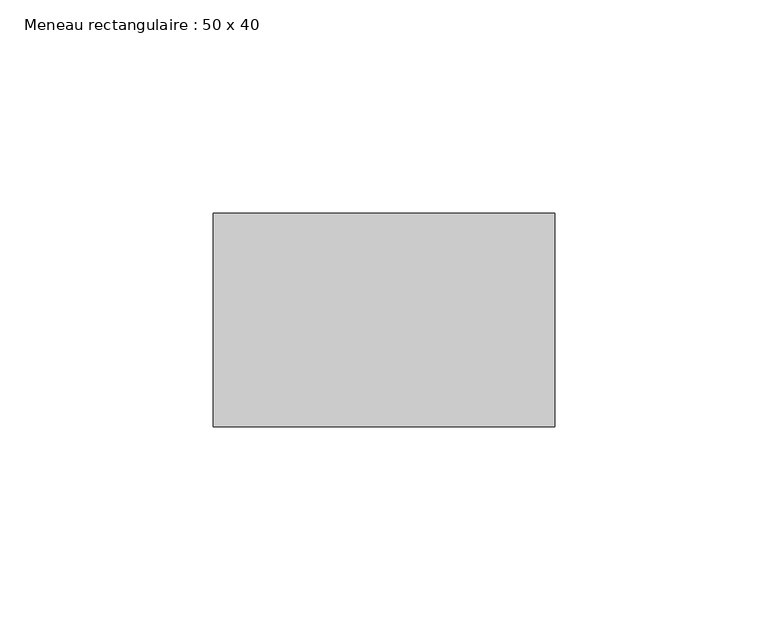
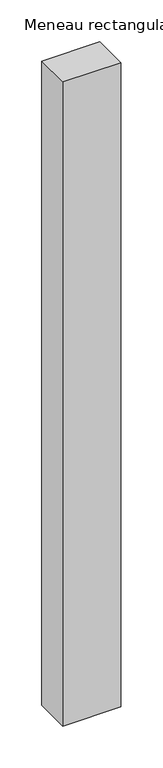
"""IFC4 building model written with IfcOpenShell, lengths in millimetres: member geometry, Meneau rectangulaire : 50 x 40."""

import ifcopenshell
import ifcopenshell.guid

model = None  # the IFC model being written
_history = None  # IfcOwnerHistory: only IFC2X3 demands one
_inside = {}  # id of a spatial element -> (the spatial element, [elements in it])
_under = {}  # id of a project, library or spatial element -> (it, [spatial elements below it])
_declared = {}  # id of a project -> (the project, [libraries it declares])
_typed = {}  # id of a type object -> (the type object, [elements of that type])
_made_of = {}  # id of a material, layer set ... -> (it, [elements and type objects made of it])


def new_model(schema):
    """Start an empty IFC model of exactly this schema.

    Asked for "IFC4X3", IfcOpenShell would pick the latest addendum, in which some entities
    have other attributes; the version numbers below select the first issue.
    IFC2X3 requires an IfcOwnerHistory on every rooted entity: one is made here for all.
    """
    global model, _history
    if schema == "IFC4X3":
        model = ifcopenshell.file(schema_version=(4, 3, 0, 0))
    else:
        model = ifcopenshell.file(schema=schema)
    _inside.clear()
    _under.clear()
    _declared.clear()
    _typed.clear()
    _made_of.clear()
    _history = None
    if model.schema == "IFC2X3":
        org = make("IfcOrganization", Name="unknown")
        user = make(
            "IfcPersonAndOrganization",
            ThePerson=make("IfcPerson", FamilyName="unknown"),
            TheOrganization=org,
        )
        app = make(
            "IfcApplication",
            ApplicationDeveloper=org,
            Version="unknown",
            ApplicationFullName="unknown",
            ApplicationIdentifier="unknown",
        )
        _history = make(
            "IfcOwnerHistory",
            OwningUser=user,
            OwningApplication=app,
            ChangeAction="ADDED",
            CreationDate=0,
        )
    return model


def make(cls, **values):
    """One entity of the class cls with the attributes given. An attribute that is None is left unset."""
    return model.create_entity(
        cls, **{name: value for name, value in values.items() if value is not None}
    )


def rooted(cls, **values):
    """An entity with a GlobalId (a new one), such as an element, a storey or a relation."""
    return make(cls, GlobalId=ifcopenshell.guid.new(), OwnerHistory=_history, **values)


def si_unit(unit_type, name, prefix=None):
    """IfcSIUnit, for example si_unit("LENGTHUNIT", "METRE", prefix="MILLI")."""
    return make("IfcSIUnit", UnitType=unit_type, Prefix=prefix, Name=name)


def assignment(units):
    """IfcUnitAssignment: the units of a project."""
    return None if units is None else make("IfcUnitAssignment", Units=units)


def point(xyz):
    """IfcCartesianPoint."""
    return None if xyz is None else make("IfcCartesianPoint", Coordinates=xyz)


def direction(xyz):
    """IfcDirection."""
    return None if xyz is None else make("IfcDirection", DirectionRatios=xyz)


def frame(location, z_axis=None, x_axis=None):
    """IfcAxis2Placement3D, a coordinate frame: its origin and axes. An axis left out is left unset."""
    return make(
        "IfcAxis2Placement3D",
        Location=point(location),
        Axis=direction(z_axis),
        RefDirection=direction(x_axis),
    )


def origin():
    """The frame at (0, 0, 0) with its axes left unset."""
    return frame((0.0, 0.0, 0.0))


def place(relative_to, where):
    """IfcLocalPlacement: puts the frame where relative to a parent placement (None: the world)."""
    return make(
        "IfcLocalPlacement", PlacementRelTo=relative_to, RelativePlacement=where
    )


def context(
    kind, dimensions, precision=None, world=None, true_north=None, identifier=None
):
    """IfcGeometricRepresentationContext, for example the 3D "Model" context."""
    return make(
        "IfcGeometricRepresentationContext",
        ContextIdentifier=identifier,
        ContextType=kind,
        CoordinateSpaceDimension=dimensions,
        Precision=precision,
        WorldCoordinateSystem=world,
        TrueNorth=true_north,
    )


def project(units=None, contexts=None):
    """IfcProject with its units and contexts."""
    return rooted(
        "IfcProject",
        Name="project",
        RepresentationContexts=contexts,
        UnitsInContext=assignment(units),
    )


def spatial(cls, under=None, at=None, **own):
    """A site, building, storey or space (cls), placed at a placement, below another one or the project."""
    s = rooted(cls, ObjectPlacement=at, **own)
    if under is not None:
        _under.setdefault(under.id(), (under, []))[1].append(s)
    return s


def polyline(points):
    """IfcPolyline through the points."""
    return make("IfcPolyline", Points=[point(p) for p in points])


def outline(outer, holes=None, kind="AREA"):
    """IfcArbitraryClosedProfileDef: a profile drawn as a closed curve; with holes, ...WithVoids."""
    if holes is None:
        return make("IfcArbitraryClosedProfileDef", ProfileType=kind, OuterCurve=outer)
    return make(
        "IfcArbitraryProfileDefWithVoids",
        ProfileType=kind,
        OuterCurve=outer,
        InnerCurves=holes,
    )


def extrude(swept, where, along, depth):
    """IfcExtrudedAreaSolid: the profile swept, set in the frame where, extruded along a direction by depth."""
    return make(
        "IfcExtrudedAreaSolid",
        SweptArea=swept,
        Position=where,
        ExtrudedDirection=direction(along),
        Depth=depth,
    )


def shape(context_of_items, identifier, shape_type, items):
    """IfcShapeRepresentation: the items that make up one representation, for example the "Body"."""
    return make(
        "IfcShapeRepresentation",
        ContextOfItems=context_of_items,
        RepresentationIdentifier=identifier,
        RepresentationType=shape_type,
        Items=items,
    )


def source(mapping_origin, context_of_items, identifier, shape_type, items):
    """IfcRepresentationMap: a shape defined once, which mapped items show again and again."""
    return make(
        "IfcRepresentationMap",
        MappingOrigin=mapping_origin,
        MappedRepresentation=shape(context_of_items, identifier, shape_type, items),
    )


def transform(
    local_origin,
    x_axis=None,
    y_axis=None,
    z_axis=None,
    scale=None,
    scale2=None,
    scale3=None,
    uniform=True,
):
    """IfcCartesianTransformationOperator3D, or its non-uniform kind. x_axis, y_axis, z_axis: its Axis1, 2, 3."""
    if uniform:
        return make(
            "IfcCartesianTransformationOperator3D",
            Axis1=direction(x_axis),
            Axis2=direction(y_axis),
            LocalOrigin=point(local_origin),
            Scale=scale,
            Axis3=direction(z_axis),
        )
    return make(
        "IfcCartesianTransformationOperator3DnonUniform",
        Axis1=direction(x_axis),
        Axis2=direction(y_axis),
        LocalOrigin=point(local_origin),
        Scale=scale,
        Axis3=direction(z_axis),
        Scale2=scale2,
        Scale3=scale3,
    )


def mapped(mapping_source, mapping_target):
    """IfcMappedItem: shows the shape of a source again, moved by a transform."""
    return make(
        "IfcMappedItem", MappingSource=mapping_source, MappingTarget=mapping_target
    )


def made_of(thing, what):
    """Note that an element or type object is made of a material, layer set ...; save() writes the relation."""
    if what is not None:
        _made_of.setdefault(what.id(), (what, []))[1].append(thing)
    return thing


def element(
    cls,
    number,
    at=None,
    inside=None,
    cuts=None,
    type_object=None,
    material=None,
    context=None,
    identifier="Body",
    shape_type=None,
    held_by="IfcProductDefinitionShape",
    body=None,
    shapes=None,
    **own,
):
    """One element of the class cls, such as IfcWall. Its Tag is "e" and its number.

    at: its placement. inside: the storey or other place that contains it. cuts: it is an
    opening in that element (IfcRelVoidsElement). A single representation is given by context,
    identifier, shape_type and body (its items); several are given by shapes. held_by: the class
    of the entity that holds the representations. save() writes the other relations.
    """
    e = rooted(cls, Tag="e%d" % number, ObjectPlacement=at, **own)
    if body is not None:
        shapes = [shape(context, identifier, shape_type, body)]
    if shapes is not None:
        e.Representation = make(held_by, Representations=shapes)
    if inside is not None:
        _inside.setdefault(inside.id(), (inside, []))[1].append(e)
    if cuts is not None:
        rooted(
            "IfcRelVoidsElement", RelatingBuildingElement=cuts, RelatedOpeningElement=e
        )
    if type_object is not None:
        _typed.setdefault(type_object.id(), (type_object, []))[1].append(e)
    return made_of(e, material)


def aggregate(whole, parts):
    """IfcRelAggregates: a whole, such as a stair, and the parts it consists of."""
    return rooted("IfcRelAggregates", RelatingObject=whole, RelatedObjects=parts)


def save(model, path):
    """Write the relations noted so far, then the file.

    IfcRelAggregates (storeys below a building ...), IfcRelContainedInSpatialStructure (elements
    in a storey), IfcRelDefinesByType, IfcRelAssociatesMaterial and IfcRelDeclares: one each for
    every whole, place, type object, material and project.
    """
    for whole, parts in _under.values():
        aggregate(whole, parts)
    for where, things in _inside.values():
        rooted(
            "IfcRelContainedInSpatialStructure",
            RelatedElements=things,
            RelatingStructure=where,
        )
    for kind, things in _typed.values():
        rooted("IfcRelDefinesByType", RelatedObjects=things, RelatingType=kind)
    for what, things in _made_of.values():
        rooted("IfcRelAssociatesMaterial", RelatedObjects=things, RelatingMaterial=what)
    for by, libraries in _declared.values():
        rooted("IfcRelDeclares", RelatingContext=by, RelatedDefinitions=libraries)
    model.write(path)


def meneau_rectangulaire_50_x_40_160054c8(model_context):
    return source(origin(), model_context, "Body", "SweptSolid", [
        extrude(outline(polyline([(40.0, 0.0), (40.0, -50.0), (-40.0, -50.0), (-40.0, 0.0), (40.0, 0.0)])), frame((0.0, 0.0, -940.0), z_axis=(0.0, 0.0, 1.0), x_axis=(1.0, 0.0, 0.0)), (0.0, 0.0, 1.0), 940.0),
    ])


if __name__ == "__main__":
    model = new_model("IFC4")
    model_context = context("Model", 3, world=origin())
    ifc_project = project(units=[si_unit("LENGTHUNIT", "METRE", prefix="MILLI")], contexts=[model_context])
    site = spatial("IfcSite", under=ifc_project)
    building = spatial("IfcBuilding", under=site)
    placement = place(None, origin())
    meneau_rectangulaire_50_x_40_shape = meneau_rectangulaire_50_x_40_160054c8(model_context)
    element("IfcMember", 1, ObjectType="Meneau rectangulaire : 50 x 40", at=placement, inside=building, context=model_context, shape_type="MappedRepresentation", body=[
        mapped(meneau_rectangulaire_50_x_40_shape, transform((0.0, 0.0, 0.0), x_axis=(1.0, 0.0, 0.0), y_axis=(0.0, 1.0, 0.0), z_axis=(0.0, 0.0, 1.0))),
    ])
    save(model, "model.ifc")
